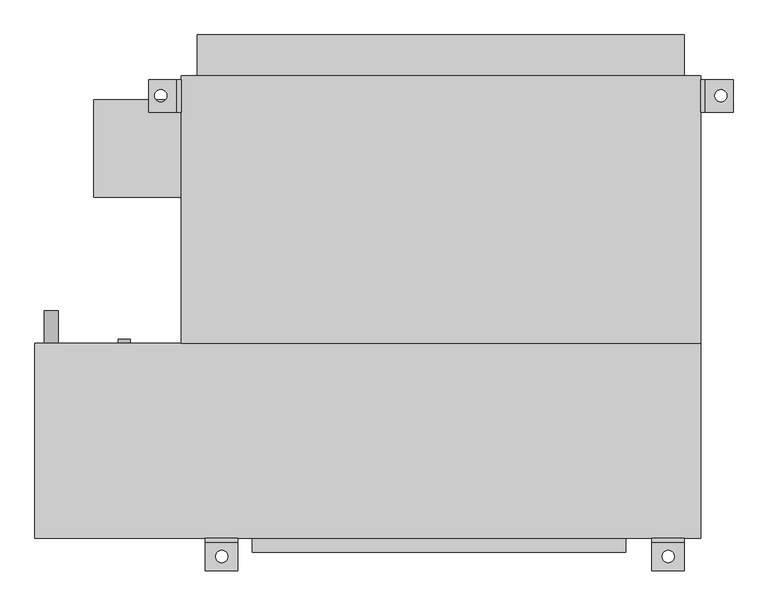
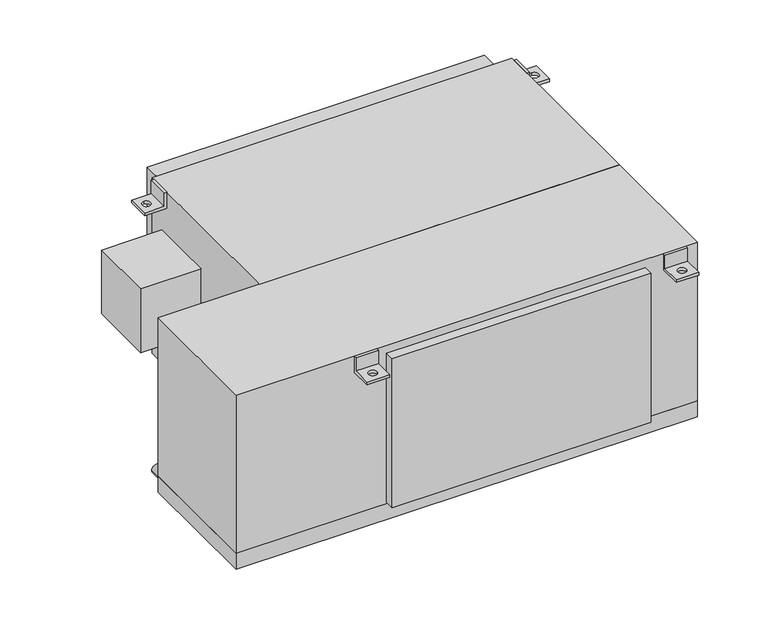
"""IFC4 building model written with IfcOpenShell, lengths in millimetres: proxy geometry, Concealed_High_Capacity_Horizontal_Fan_Coil_Unit_With_Plenum_-_42DCA_-_CARRIER_-_2-Pipe_Cool-EHeat_ValveEnclosure_LH_2022 : Size 10 - 277v/60Hz/1Ph - 6 Row 7.0kW."""

from ifc_helpers import new_model, si_unit, point, frame, frame_2d, origin, place, context, project, spatial, polyline, circle_curve, trimmed, segment, composite_curve, outline, extrude, source, transform, mapped, element, save
from ifc_brep_helpers import plane_surface, revolved_surface, advanced_brep


def mechanical_equipment_9a50b78a(model_context):
    return source(origin(), model_context, "Body", "SolidModel", [
        advanced_brep(
        [(533.4, -390.525, 0.0), (533.4, -396.875, 0.0), (533.4, -396.875, -31.75), (533.4, -441.325, -31.75), (533.4, -441.325, -38.1), (533.4, -390.525, -38.1), (482.6, -390.525, 0.0), (482.6, -390.525, -38.1), (482.6, -441.325, -38.1), (482.6, -441.325, -31.75), (482.6, -396.875, -31.75), (482.6, -396.875, 0.0), (498.475, -419.1, -31.75), (517.525, -419.1, -31.75), (517.525, -419.1, -38.1), (498.475, -419.1, -38.1)],
        [
            (0, 1),
            (1, 2),
            (2, 3),
            (3, 4),
            (4, 5),
            (5, 0),
            (6, 7),
            (7, 8),
            (8, 9),
            (9, 10),
            (10, 11),
            (11, 6),
            (0, 6),
            (11, 1),
            (10, 2),
            (9, 3),
            (12, 13, circle_curve(frame((508.0, -419.1, -31.75), z_axis=(0.0, 0.0, -1.0), x_axis=(1.0, 0.0, 0.0)), 9.525)),
            (13, 12, circle_curve(frame((508.0, -419.1, -31.75), z_axis=(0.0, 0.0, -1.0), x_axis=(1.0, 0.0, 0.0)), 9.525)),
            (8, 4),
            (7, 5),
            (14, 15, circle_curve(frame((508.0, -419.1, -38.1), z_axis=(0.0, 0.0, 1.0), x_axis=(1.0, 0.0, 0.0)), 9.525)),
            (15, 14, circle_curve(frame((508.0, -419.1, -38.1), z_axis=(0.0, 0.0, 1.0), x_axis=(1.0, 0.0, 0.0)), 9.525)),
            (12, 15),
            (14, 13),
        ],
        [
            plane_surface(frame((533.4, -396.875, 0.0), z_axis=(1.0, 0.0, 0.0), x_axis=(0.0, -1.0, 0.0))),
            plane_surface(frame((482.6, -396.875, 0.0), z_axis=(-1.0, 0.0, 0.0), x_axis=(0.0, 1.0, 0.0))),
            plane_surface(frame((533.4, -390.525, 0.0), z_axis=(0.0, 0.0, 1.0), x_axis=(-1.0, 0.0, 0.0))),
            plane_surface(frame((533.4, -396.875, 0.0), z_axis=(0.0, -1.0, 0.0), x_axis=(-1.0, 0.0, 0.0))),
            plane_surface(frame((533.4, -396.875, -31.75), z_axis=(0.0, 0.0, 1.0), x_axis=(-1.0, 0.0, 0.0))),
            plane_surface(frame((533.4, -441.325, -31.75), z_axis=(0.0, -1.0, 0.0), x_axis=(-1.0, 0.0, 0.0))),
            plane_surface(frame((533.4, -441.325, -38.1), z_axis=(0.0, 0.0, -1.0), x_axis=(-1.0, 0.0, 0.0))),
            plane_surface(frame((533.4, -390.525, -38.1), z_axis=(0.0, 1.0, 0.0), x_axis=(-1.0, 0.0, 0.0))),
            revolved_surface(polyline([(517.525, -419.1, -38.1), (517.525, -419.1, -31.75)]), (508.0, -419.1, -31.75), (0.0, 0.0, -1.0)),
        ],
        [
            (0, [[1, 2, 3, 4, 5, 6]]),
            (1, [[7, 8, 9, 10, 11, 12]]),
            (2, [[-1, 13, -12, 14]]),
            (3, [[-2, -14, -11, 15]]),
            (4, [[-3, -15, -10, 16], [17, 18]]),
            (5, [[-4, -16, -9, 19]]),
            (6, [[-5, -19, -8, 20], [21, 22]]),
            (7, [[-6, -20, -7, -13]]),
            (8, [[23, -21, 24, -17]]),
            (8, [[-23, -18, -24, -22]]),
        ],
    ),
        advanced_brep(
        [(-165.1, -390.525, -38.1), (-165.1, -390.525, 0.0), (-165.1, -396.875, 0.0), (-165.1, -396.875, -31.75), (-165.1, -441.325, -31.75), (-165.1, -441.325, -38.1), (-215.9, -390.525, -38.1), (-215.9, -441.325, -38.1), (-215.9, -441.325, -31.75), (-215.9, -396.875, -31.75), (-215.9, -396.875, 0.0), (-215.9, -390.525, 0.0), (-200.025, -419.1, -31.75), (-180.975, -419.1, -31.75), (-180.975, -419.1, -38.1), (-200.025, -419.1, -38.1)],
        [
            (0, 1),
            (1, 2),
            (2, 3),
            (3, 4),
            (4, 5),
            (5, 0),
            (6, 7),
            (7, 8),
            (8, 9),
            (9, 10),
            (10, 11),
            (11, 6),
            (0, 6),
            (11, 1),
            (10, 2),
            (9, 3),
            (8, 4),
            (12, 13, circle_curve(frame((-190.5, -419.1, -31.75), z_axis=(0.0, 0.0, -1.0), x_axis=(1.0, 0.0, 0.0)), 9.525)),
            (13, 12, circle_curve(frame((-190.5, -419.1, -31.75), z_axis=(0.0, 0.0, -1.0), x_axis=(1.0, 0.0, 0.0)), 9.525)),
            (7, 5),
            (14, 15, circle_curve(frame((-190.5, -419.1, -38.1), z_axis=(0.0, 0.0, 1.0), x_axis=(1.0, 0.0, 0.0)), 9.525)),
            (15, 14, circle_curve(frame((-190.5, -419.1, -38.1), z_axis=(0.0, 0.0, 1.0), x_axis=(1.0, 0.0, 0.0)), 9.525)),
            (12, 15),
            (14, 13),
        ],
        [
            plane_surface(frame((-165.1, -390.525, -38.1), z_axis=(1.0, 0.0, 0.0), x_axis=(0.0, 0.0, 1.0))),
            plane_surface(frame((-215.9, -390.525, -38.1), z_axis=(-1.0, 0.0, 0.0), x_axis=(0.0, 0.0, -1.0))),
            plane_surface(frame((-165.1, -390.525, -38.1), z_axis=(0.0, 1.0, 0.0), x_axis=(-1.0, 0.0, 0.0))),
            plane_surface(frame((-165.1, -390.525, 0.0), z_axis=(0.0, 0.0, 1.0), x_axis=(-1.0, 0.0, 0.0))),
            plane_surface(frame((-165.1, -396.875, 0.0), z_axis=(0.0, -1.0, 0.0), x_axis=(-1.0, 0.0, 0.0))),
            plane_surface(frame((-165.1, -396.875, -31.75), z_axis=(0.0, 0.0, 1.0), x_axis=(-1.0, 0.0, 0.0))),
            plane_surface(frame((-165.1, -441.325, -31.75), z_axis=(0.0, -1.0, 0.0), x_axis=(-1.0, 0.0, 0.0))),
            plane_surface(frame((-165.1, -441.325, -38.1), z_axis=(0.0, 0.0, -1.0), x_axis=(-1.0, 0.0, 0.0))),
            revolved_surface(polyline([(-180.975, -419.1, -38.1), (-180.975, -419.1, -31.75)]), (-190.5, -419.1, -31.75), (0.0, 0.0, -1.0)),
        ],
        [
            (0, [[1, 2, 3, 4, 5, 6]]),
            (1, [[7, 8, 9, 10, 11, 12]]),
            (2, [[-1, 13, -12, 14]]),
            (3, [[-2, -14, -11, 15]]),
            (4, [[-3, -15, -10, 16]]),
            (5, [[-4, -16, -9, 17], [18, 19]]),
            (6, [[-5, -17, -8, 20]]),
            (7, [[-6, -20, -7, -13], [21, 22]]),
            (8, [[23, -21, 24, -18]]),
            (8, [[-23, -19, -24, -22]]),
        ],
    ),
        extrude(outline(composite_curve([segment(trimmed(circle_curve(frame_2d((-400.05, -457.2)), 11.1125), [point((-400.05, -468.3125))], [point((-400.05, -446.0875))], False, "CARTESIAN"), True, "CONTINUOUS"), segment(trimmed(circle_curve(frame_2d((-400.05, -457.2)), 11.1125), [point((-400.05, -446.0875))], [point((-400.05, -468.3125))], False, "CARTESIAN"), True, "CONTINUOUS")], self_intersect=False)), frame((0.0, -85.725, 0.0), z_axis=(0.0, 1.0, 0.0), x_axis=(0.0, 0.0, 1.0)), (0.0, 0.0, 1.0), 50.8),
        extrude(outline(composite_curve([segment(trimmed(circle_curve(frame_2d((-44.45, -342.9)), 9.525), [point((-44.45, -352.425))], [point((-44.45, -333.375))], False, "CARTESIAN"), True, "CONTINUOUS"), segment(trimmed(circle_curve(frame_2d((-44.45, -342.9)), 9.525), [point((-44.45, -333.375))], [point((-44.45, -352.425))], False, "CARTESIAN"), True, "CONTINUOUS")], self_intersect=False)), frame((0.0, -85.725, 0.0), z_axis=(0.0, 1.0, 0.0), x_axis=(0.0, 0.0, 1.0)), (0.0, 0.0, 1.0), 6.35),
        extrude(outline(composite_curve([segment(trimmed(circle_curve(frame_2d((-276.225, -342.9)), 9.525), [point((-276.225, -352.425))], [point((-276.225, -333.375))], False, "CARTESIAN"), True, "CONTINUOUS"), segment(trimmed(circle_curve(frame_2d((-276.225, -342.9)), 9.525), [point((-276.225, -333.375))], [point((-276.225, -352.425))], False, "CARTESIAN"), True, "CONTINUOUS")], self_intersect=False)), frame((0.0, -85.725, 0.0), z_axis=(0.0, 1.0, 0.0), x_axis=(0.0, 0.0, 1.0)), (0.0, 0.0, 1.0), 6.35),
        advanced_brep(
        [(-254.0, 327.025, -38.1), (-304.8, 327.025, -38.1), (-304.8, 327.025, -31.75), (-260.35, 327.025, -31.75), (-260.35, 327.025, 0.0), (-254.0, 327.025, 0.0), (-254.0, 276.225, -38.1), (-254.0, 276.225, 0.0), (-260.35, 276.225, 0.0), (-260.35, 276.225, -31.75), (-304.8, 276.225, -31.75), (-304.8, 276.225, -38.1), (-285.75, 292.1, -38.1), (-285.75, 311.15, -38.1), (-285.75, 311.15, -31.75), (-285.75, 292.1, -31.75)],
        [
            (0, 1),
            (1, 2),
            (2, 3),
            (3, 4),
            (4, 5),
            (5, 0),
            (6, 7),
            (7, 8),
            (8, 9),
            (9, 10),
            (10, 11),
            (11, 6),
            (0, 6),
            (11, 1),
            (12, 13, circle_curve(frame((-285.75, 301.625, -38.1), z_axis=(0.0, 0.0, 1.0), x_axis=(0.0, -1.0, 0.0)), 9.525)),
            (13, 12, circle_curve(frame((-285.75, 301.625, -38.1), z_axis=(0.0, 0.0, 1.0), x_axis=(0.0, -1.0, 0.0)), 9.525)),
            (10, 2),
            (9, 3),
            (14, 15, circle_curve(frame((-285.75, 301.625, -31.75), z_axis=(0.0, 0.0, -1.0), x_axis=(0.0, -1.0, 0.0)), 9.525)),
            (15, 14, circle_curve(frame((-285.75, 301.625, -31.75), z_axis=(0.0, 0.0, -1.0), x_axis=(0.0, -1.0, 0.0)), 9.525)),
            (8, 4),
            (7, 5),
            (14, 13),
            (12, 15),
        ],
        [
            plane_surface(frame((-254.0, 327.025, -38.1), z_axis=(0.0, 1.0, 0.0), x_axis=(-1.0, 0.0, 0.0))),
            plane_surface(frame((-254.0, 276.225, -38.1), z_axis=(0.0, -1.0, 0.0), x_axis=(1.0, 0.0, 0.0))),
            plane_surface(frame((-254.0, 327.025, -38.1), z_axis=(0.0, 0.0, -1.0), x_axis=(0.0, -1.0, 0.0))),
            plane_surface(frame((-304.8, 327.025, -38.1), z_axis=(-1.0, 0.0, 0.0), x_axis=(0.0, -1.0, 0.0))),
            plane_surface(frame((-304.8, 327.025, -31.75), z_axis=(0.0, 0.0, 1.0), x_axis=(0.0, -1.0, 0.0))),
            plane_surface(frame((-260.35, 327.025, -31.75), z_axis=(-1.0, 0.0, 0.0), x_axis=(0.0, -1.0, 0.0))),
            plane_surface(frame((-260.35, 327.025, 0.0), z_axis=(0.0, 0.0, 1.0), x_axis=(0.0, -1.0, 0.0))),
            plane_surface(frame((-254.0, 327.025, 0.0), z_axis=(1.0, 0.0, 0.0), x_axis=(0.0, -1.0, 0.0))),
            revolved_surface(polyline([(-285.75, 292.1, -38.1), (-285.75, 292.1, -31.75)]), (-285.75, 301.625, -31.75), (0.0, 0.0, -1.0)),
        ],
        [
            (0, [[1, 2, 3, 4, 5, 6]]),
            (1, [[7, 8, 9, 10, 11, 12]]),
            (2, [[-1, 13, -12, 14], [15, 16]]),
            (3, [[-2, -14, -11, 17]]),
            (4, [[-3, -17, -10, 18], [19, 20]]),
            (5, [[-4, -18, -9, 21]]),
            (6, [[-5, -21, -8, 22]]),
            (7, [[-6, -22, -7, -13]]),
            (8, [[23, -15, 24, -19]]),
            (8, [[-23, -20, -24, -16]]),
        ],
    ),
        advanced_brep(
        [(558.8, 327.025, -38.1), (558.8, 327.025, 0.0), (565.15, 327.025, 0.0), (565.15, 327.025, -31.75), (609.6, 327.025, -31.75), (609.6, 327.025, -38.1), (558.8, 276.225, -38.1), (609.6, 276.225, -38.1), (609.6, 276.225, -31.75), (565.15, 276.225, -31.75), (565.15, 276.225, 0.0), (558.8, 276.225, 0.0), (590.55, 311.15, -31.75), (590.55, 292.1, -31.75), (590.55, 292.1, -38.1), (590.55, 311.15, -38.1)],
        [
            (0, 1),
            (1, 2),
            (2, 3),
            (3, 4),
            (4, 5),
            (5, 0),
            (6, 7),
            (7, 8),
            (8, 9),
            (9, 10),
            (10, 11),
            (11, 6),
            (0, 6),
            (11, 1),
            (10, 2),
            (9, 3),
            (8, 4),
            (12, 13, circle_curve(frame((590.55, 301.625, -31.75), z_axis=(0.0, 0.0, -1.0), x_axis=(0.0, -1.0, 0.0)), 9.525)),
            (13, 12, circle_curve(frame((590.55, 301.625, -31.75), z_axis=(0.0, 0.0, -1.0), x_axis=(0.0, -1.0, 0.0)), 9.525)),
            (7, 5),
            (14, 15, circle_curve(frame((590.55, 301.625, -38.1), z_axis=(0.0, 0.0, 1.0), x_axis=(0.0, -1.0, 0.0)), 9.525)),
            (15, 14, circle_curve(frame((590.55, 301.625, -38.1), z_axis=(0.0, 0.0, 1.0), x_axis=(0.0, -1.0, 0.0)), 9.525)),
            (12, 15),
            (14, 13),
        ],
        [
            plane_surface(frame((-254.0, 327.025, -38.1), z_axis=(0.0, 1.0, 0.0), x_axis=(-1.0, 0.0, 0.0))),
            plane_surface(frame((-254.0, 276.225, -38.1), z_axis=(0.0, -1.0, 0.0), x_axis=(1.0, 0.0, 0.0))),
            plane_surface(frame((558.8, 327.025, -38.1), z_axis=(-1.0, 0.0, 0.0), x_axis=(0.0, -1.0, 0.0))),
            plane_surface(frame((558.8, 327.025, 0.0), z_axis=(0.0, 0.0, 1.0), x_axis=(0.0, -1.0, 0.0))),
            plane_surface(frame((565.15, 327.025, 0.0), z_axis=(1.0, 0.0, 0.0), x_axis=(0.0, -1.0, 0.0))),
            plane_surface(frame((565.15, 327.025, -31.75), z_axis=(0.0, 0.0, 1.0), x_axis=(0.0, -1.0, 0.0))),
            plane_surface(frame((609.6, 327.025, -31.75), z_axis=(1.0, 0.0, 0.0), x_axis=(0.0, -1.0, 0.0))),
            plane_surface(frame((609.6, 327.025, -38.1), z_axis=(0.0, 0.0, -1.0), x_axis=(0.0, -1.0, 0.0))),
            revolved_surface(polyline([(590.55, 292.1, -38.1), (590.55, 292.1, -31.75)]), (590.55, 301.625, -31.75), (0.0, 0.0, -1.0)),
        ],
        [
            (0, [[1, 2, 3, 4, 5, 6]]),
            (1, [[7, 8, 9, 10, 11, 12]]),
            (2, [[-1, 13, -12, 14]]),
            (3, [[-2, -14, -11, 15]]),
            (4, [[-3, -15, -10, 16]]),
            (5, [[-4, -16, -9, 17], [18, 19]]),
            (6, [[-5, -17, -8, 20]]),
            (7, [[-6, -20, -7, -13], [21, 22]]),
            (8, [[23, -21, 24, -18]]),
            (8, [[-23, -19, -24, -22]]),
        ],
    ),
        extrude(outline(polyline([(-228.6, 396.875), (533.4, 396.875), (533.4, 333.375), (-228.6, 333.375), (-228.6, 396.875)])), frame((0.0, 0.0, -377.825), z_axis=(0.0, 0.0, 1.0), x_axis=(1.0, 0.0, 0.0)), (0.0, 0.0, 1.0), 355.6),
        extrude(outline(polyline([(-390.525, 142.875), (-390.525, 295.275), (-254.0, 295.275), (-254.0, 142.875), (-390.525, 142.875)])), frame((0.0, 0.0, -254.0), z_axis=(0.0, 0.0, 1.0), x_axis=(1.0, 0.0, 0.0)), (0.0, 0.0, 1.0), 152.4),
        extrude(outline(polyline([(441.325, -412.75), (-142.875, -412.75), (-142.875, -390.525), (441.325, -390.525), (441.325, -412.75)])), frame((0.0, 0.0, -374.65), z_axis=(0.0, 0.0, 1.0), x_axis=(1.0, 0.0, 0.0)), (0.0, 0.0, 1.0), 355.6),
        extrude(outline(polyline([(558.8, -85.725), (-254.0, -85.725), (-254.0, 333.375), (558.8, 333.375), (558.8, -85.725)])), frame((0.0, 0.0, -419.1), z_axis=(0.0, 0.0, 1.0), x_axis=(1.0, 0.0, 0.0)), (0.0, 0.0, 1.0), 419.1),
        extrude(outline(polyline([(558.8, -85.725), (558.8, -390.525), (-482.6, -390.525), (-482.6, -85.725), (558.8, -85.725)])), frame((0.0, 0.0, -377.825), z_axis=(0.0, 0.0, 1.0), x_axis=(1.0, 0.0, 0.0)), (0.0, 0.0, 1.0), 377.825),
        extrude(outline(polyline([(558.8, -85.725), (558.8, -390.525), (-482.6, -390.525), (-482.6, -85.725), (558.8, -85.725)])), frame((0.0, 0.0, -415.925), z_axis=(0.0, 0.0, 1.0), x_axis=(1.0, 0.0, 0.0)), (0.0, 0.0, 1.0), 38.1),
    ])


if __name__ == "__main__":
    model = new_model("IFC4")
    model_context = context("Model", 3, world=origin())
    ifc_project = project(units=[si_unit("LENGTHUNIT", "METRE", prefix="MILLI")], contexts=[model_context])
    site = spatial("IfcSite", under=ifc_project)
    building = spatial("IfcBuilding", under=site)
    placement = place(None, origin())
    mechanical_equipment_shape = mechanical_equipment_9a50b78a(model_context)
    element("IfcBuildingElementProxy", 1, Name="Concealed_High_Capacity_Horizontal_Fan_Coil_Unit_With_Plenum_-_42DCA_-_CARRIER_-_2-Pipe_Cool-EHeat_ValveEnclosure_LH_2022 : Size 10 - 277v/60Hz/1Ph - 6 Row 7.0kW", ObjectType="Concealed_High_Capacity_Horizontal_Fan_Coil_Unit_With_Plenum_-_42DCA_-_CARRIER_-_2-Pipe_Cool-EHeat_ValveEnclosure_LH_2022 : Size 10 - 277v/60Hz/1Ph - 6 Row 7.0kW", at=placement, inside=building, context=model_context, shape_type="MappedRepresentation", body=[
        mapped(mechanical_equipment_shape, transform((0.0, 0.0, 0.0), x_axis=(1.0, 0.0, 0.0), y_axis=(0.0, 1.0, 0.0), z_axis=(0.0, 0.0, 1.0))),
    ])
    save(model, "model.ifc")
